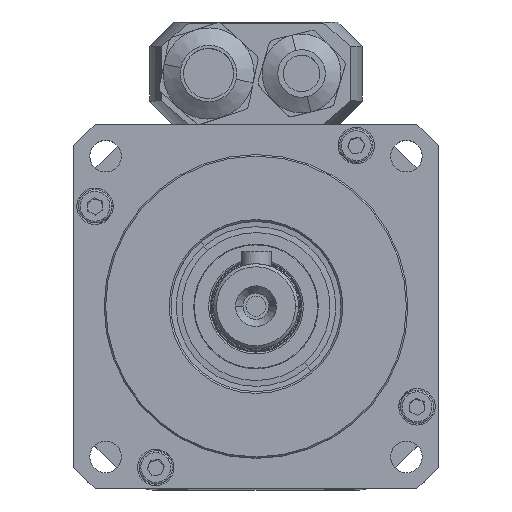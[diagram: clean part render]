
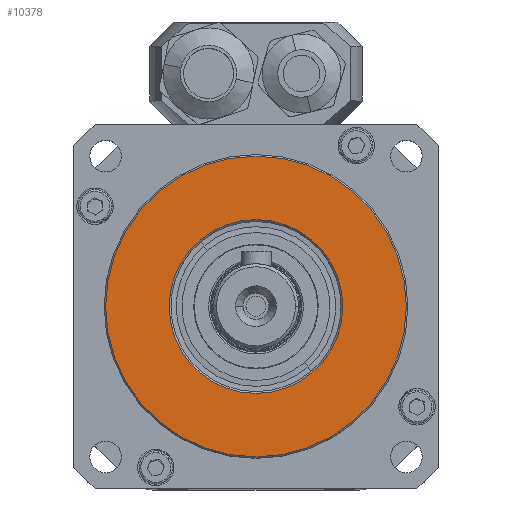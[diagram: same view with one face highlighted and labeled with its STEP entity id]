
A CAD part, top view. The second image highlights one B-rep face of the part: STEP entity #10378.
In plain terms, the highlighted planar face has unit normal (0, 0, 1).
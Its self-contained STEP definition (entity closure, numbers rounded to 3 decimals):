
#23 = EDGE_CURVE ( 'NONE', #8116, #17616, #13818, .T. ) ;
#740 = EDGE_CURVE ( 'NONE', #17616, #8116, #2549, .T. ) ;
#747 = EDGE_CURVE ( 'NONE', #9151, #17619, #2560, .T. ) ;
#752 = EDGE_CURVE ( 'NONE', #17619, #9151, #2569, .T. ) ;
#809 = AXIS2_PLACEMENT_3D ( 'NONE', #8215, #8221, #8227 ) ;
#1921 = CARTESIAN_POINT ( 'NONE',  ( -24.75, 0., 9.5 ) ) ;
#1983 = CARTESIAN_POINT ( 'NONE',  ( -14.3, 0., 9.5 ) ) ;
#2412 = FACE_OUTER_BOUND ( 'NONE', #3199, .T. ) ;
#2420 = FACE_BOUND ( 'NONE', #3197, .T. ) ;
#2549 = CIRCLE ( 'NONE', #15263, 14.3 ) ;
#2560 = CIRCLE ( 'NONE', #15271, 24.75 ) ;
#2569 = CIRCLE ( 'NONE', #15269, 24.75 ) ;
#3197 = EDGE_LOOP ( 'NONE', ( #18318, #18290 ) ) ;
#3199 = EDGE_LOOP ( 'NONE', ( #11245, #11362 ) ) ;
#3875 = DIRECTION ( 'NONE',  ( 1., 0., 0. ) ) ;
#3876 = DIRECTION ( 'NONE',  ( 0., 0., 1. ) ) ;
#3882 = PLANE ( 'NONE',  #6237 ) ;
#3884 = CARTESIAN_POINT ( 'NONE',  ( 0., 0., 9.5 ) ) ;
#5164 = CARTESIAN_POINT ( 'NONE',  ( 24.75, 0., 9.5 ) ) ;
#5167 = CARTESIAN_POINT ( 'NONE',  ( 14.3, 0., 9.5 ) ) ;
#6237 = AXIS2_PLACEMENT_3D ( 'NONE', #3884, #3876, #3875 ) ;
#8116 = VERTEX_POINT ( 'NONE', #1983 ) ;
#8215 = CARTESIAN_POINT ( 'NONE',  ( 0., 0., 9.5 ) ) ;
#8221 = DIRECTION ( 'NONE',  ( 0., 0., -1. ) ) ;
#8227 = DIRECTION ( 'NONE',  ( 1., 0., 0. ) ) ;
#8350 = DIRECTION ( 'NONE',  ( 1., 0., 0. ) ) ;
#8351 = DIRECTION ( 'NONE',  ( 0., 0., 1. ) ) ;
#8361 = CARTESIAN_POINT ( 'NONE',  ( 0., 0., 9.5 ) ) ;
#8366 = DIRECTION ( 'NONE',  ( 1., 0., 0. ) ) ;
#8367 = DIRECTION ( 'NONE',  ( 0., 0., 1. ) ) ;
#8368 = CARTESIAN_POINT ( 'NONE',  ( 0., 0., 9.5 ) ) ;
#8391 = DIRECTION ( 'NONE',  ( 1., 0., 0. ) ) ;
#8392 = DIRECTION ( 'NONE',  ( 0., 0., -1. ) ) ;
#8409 = CARTESIAN_POINT ( 'NONE',  ( 0., 0., 9.5 ) ) ;
#9151 = VERTEX_POINT ( 'NONE', #1921 ) ;
#10378 = ADVANCED_FACE ( 'NONE', ( #2412, #2420 ), #3882, .T. ) ;
#11245 = ORIENTED_EDGE ( 'NONE', *, *, #747, .T. ) ;
#11362 = ORIENTED_EDGE ( 'NONE', *, *, #752, .T. ) ;
#13818 = CIRCLE ( 'NONE', #809, 14.3 ) ;
#15263 = AXIS2_PLACEMENT_3D ( 'NONE', #8409, #8392, #8391 ) ;
#15269 = AXIS2_PLACEMENT_3D ( 'NONE', #8361, #8351, #8350 ) ;
#15271 = AXIS2_PLACEMENT_3D ( 'NONE', #8368, #8367, #8366 ) ;
#17616 = VERTEX_POINT ( 'NONE', #5167 ) ;
#17619 = VERTEX_POINT ( 'NONE', #5164 ) ;
#18290 = ORIENTED_EDGE ( 'NONE', *, *, #23, .T. ) ;
#18318 = ORIENTED_EDGE ( 'NONE', *, *, #740, .T. ) ;
